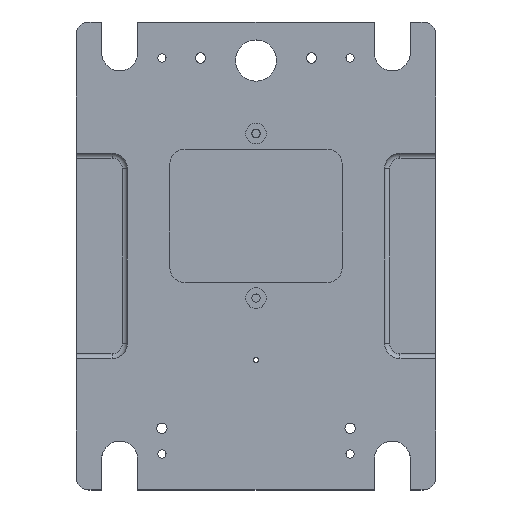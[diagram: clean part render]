
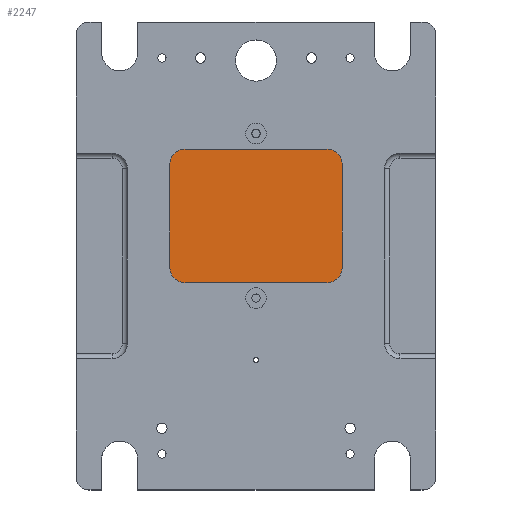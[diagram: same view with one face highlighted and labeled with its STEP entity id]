
A CAD part, top view. The second image highlights one B-rep face of the part: STEP entity #2247.
In plain terms, the highlighted planar face has unit normal (0, 0, 1).
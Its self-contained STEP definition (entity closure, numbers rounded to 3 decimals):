
#1637 = EDGE_CURVE('',#1638,#1640,#1642,.T.);
#1638 = VERTEX_POINT('',#1639);
#1639 = CARTESIAN_POINT('',(13.74,-0.61,2.5));
#1640 = VERTEX_POINT('',#1641);
#1641 = CARTESIAN_POINT('',(16.74,2.39,2.5));
#1642 = CIRCLE('',#1643,3.);
#1643 = AXIS2_PLACEMENT_3D('',#1644,#1645,#1646);
#1644 = CARTESIAN_POINT('',(13.74,2.39,2.5));
#1645 = DIRECTION('',(-0.,0.,1.));
#1646 = DIRECTION('',(0.,-1.,0.));
#1671 = EDGE_CURVE('',#1638,#1672,#1674,.T.);
#1672 = VERTEX_POINT('',#1673);
#1673 = CARTESIAN_POINT('',(-13.76,-0.61,2.5));
#1674 = LINE('',#1675,#1676);
#1675 = CARTESIAN_POINT('',(16.74,-0.61,2.5));
#1676 = VECTOR('',#1677,1.);
#1677 = DIRECTION('',(-1.,0.,0.));
#1693 = EDGE_CURVE('',#1640,#1694,#1696,.T.);
#1694 = VERTEX_POINT('',#1695);
#1695 = CARTESIAN_POINT('',(16.74,22.39,2.5));
#1696 = LINE('',#1697,#1698);
#1697 = CARTESIAN_POINT('',(16.74,-0.61,2.5));
#1698 = VECTOR('',#1699,1.);
#1699 = DIRECTION('',(0.,1.,0.));
#1717 = EDGE_CURVE('',#1672,#1718,#1720,.T.);
#1718 = VERTEX_POINT('',#1719);
#1719 = CARTESIAN_POINT('',(-16.76,2.39,2.5));
#1720 = CIRCLE('',#1721,3.);
#1721 = AXIS2_PLACEMENT_3D('',#1722,#1723,#1724);
#1722 = CARTESIAN_POINT('',(-13.76,2.39,2.5));
#1723 = DIRECTION('',(-0.,-0.,-1.));
#1724 = DIRECTION('',(0.,-1.,0.));
#1742 = EDGE_CURVE('',#1743,#1694,#1745,.T.);
#1743 = VERTEX_POINT('',#1744);
#1744 = CARTESIAN_POINT('',(13.74,25.39,2.5));
#1745 = CIRCLE('',#1746,3.);
#1746 = AXIS2_PLACEMENT_3D('',#1747,#1748,#1749);
#1747 = CARTESIAN_POINT('',(13.74,22.39,2.5));
#1748 = DIRECTION('',(-0.,-0.,-1.));
#1749 = DIRECTION('',(0.,-1.,0.));
#1767 = EDGE_CURVE('',#1718,#1768,#1770,.T.);
#1768 = VERTEX_POINT('',#1769);
#1769 = CARTESIAN_POINT('',(-16.76,22.39,2.5));
#1770 = LINE('',#1771,#1772);
#1771 = CARTESIAN_POINT('',(-16.76,-0.61,2.5));
#1772 = VECTOR('',#1773,1.);
#1773 = DIRECTION('',(0.,1.,0.));
#1793 = EDGE_CURVE('',#1743,#1794,#1796,.T.);
#1794 = VERTEX_POINT('',#1795);
#1795 = CARTESIAN_POINT('',(-13.76,25.39,2.5));
#1796 = LINE('',#1797,#1798);
#1797 = CARTESIAN_POINT('',(16.74,25.39,2.5));
#1798 = VECTOR('',#1799,1.);
#1799 = DIRECTION('',(-1.,0.,0.));
#1815 = EDGE_CURVE('',#1794,#1768,#1816,.T.);
#1816 = CIRCLE('',#1817,3.);
#1817 = AXIS2_PLACEMENT_3D('',#1818,#1819,#1820);
#1818 = CARTESIAN_POINT('',(-13.76,22.39,2.5));
#1819 = DIRECTION('',(-0.,0.,1.));
#1820 = DIRECTION('',(0.,-1.,0.));
#2247 = ADVANCED_FACE('',(#2248),#2258,.T.);
#2248 = FACE_BOUND('',#2249,.T.);
#2249 = EDGE_LOOP('',(#2250,#2251,#2252,#2253,#2254,#2255,#2256,#2257));
#2250 = ORIENTED_EDGE('',*,*,#1671,.F.);
#2251 = ORIENTED_EDGE('',*,*,#1637,.T.);
#2252 = ORIENTED_EDGE('',*,*,#1693,.T.);
#2253 = ORIENTED_EDGE('',*,*,#1742,.F.);
#2254 = ORIENTED_EDGE('',*,*,#1793,.T.);
#2255 = ORIENTED_EDGE('',*,*,#1815,.T.);
#2256 = ORIENTED_EDGE('',*,*,#1767,.F.);
#2257 = ORIENTED_EDGE('',*,*,#1717,.F.);
#2258 = PLANE('',#2259);
#2259 = AXIS2_PLACEMENT_3D('',#2260,#2261,#2262);
#2260 = CARTESIAN_POINT('',(16.74,-0.61,2.5));
#2261 = DIRECTION('',(0.,0.,1.));
#2262 = DIRECTION('',(0.,1.,0.));
